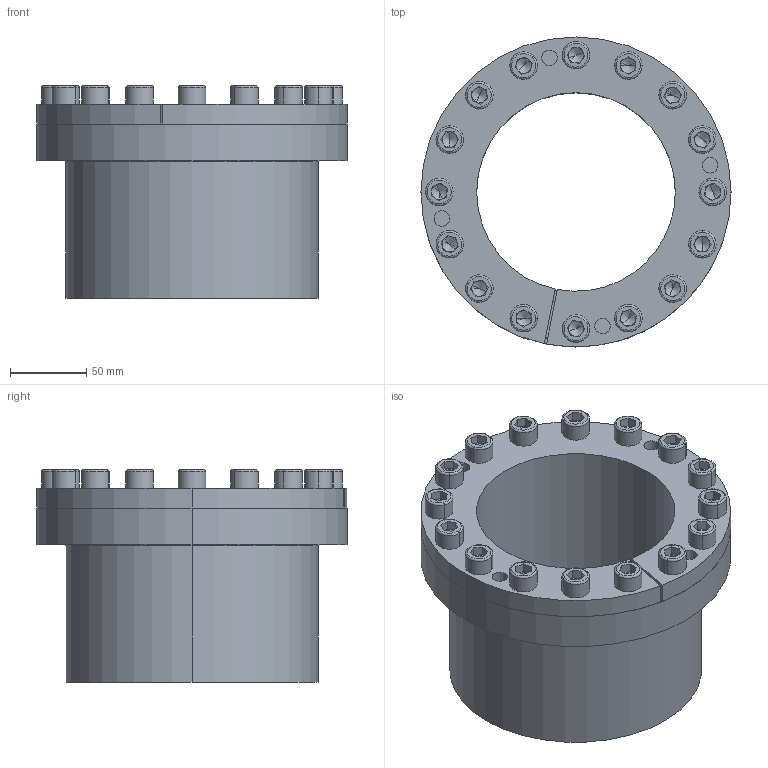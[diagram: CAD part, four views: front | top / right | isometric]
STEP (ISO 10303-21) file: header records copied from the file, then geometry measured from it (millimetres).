
FILE_DESCRIPTION (( 'STEP AP214' ), '1' );
FILE_NAME ('CONEX-B-130x165.step', '2013-04-04T12:42:51', ( 'Pc' ), ( '' ), 'SwSTEP 2.0', 'SolidWorks 2013', '' );
FILE_SCHEMA (( 'AUTOMOTIVE_DESIGN' ));
Length unit declared in the file: millimetre
Products named in the file (1): CONEX-B-130x165
Bounding box: 203 x 203 x 139.04 mm (x, y, z)
Volume: 1356643.3 mm3; surface area: 363620 mm2
Topology: 19 solids, 19 shells, 544 faces, 1242 edges, 736 vertices
Faces by surface type: plane 252, cylinder 152, torus 70, cone 70
Entity records: 21380 total; most frequent: DIRECTION 2874, CARTESIAN_POINT 2539, ORIENTED_EDGE 2420, EDGE_CURVE 1210, AXIS2_PLACEMENT_3D 1127, VERTEX_POINT 736, EDGE_LOOP 650, LINE 620
